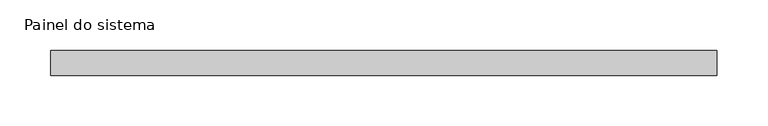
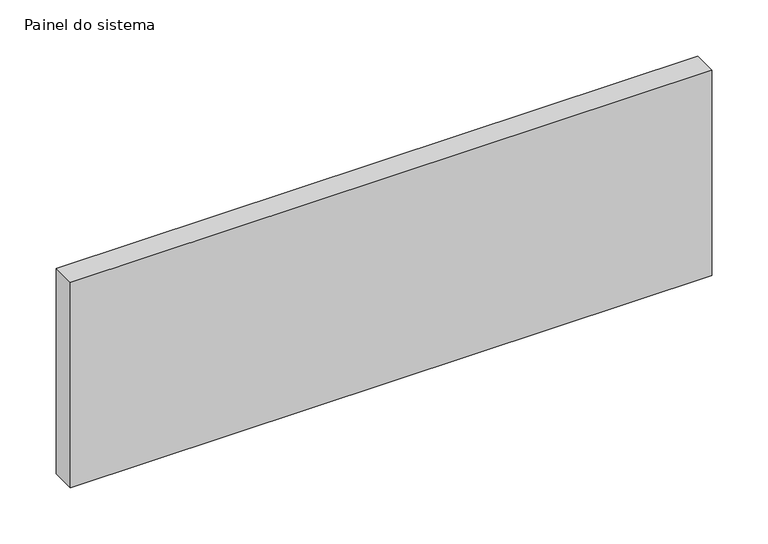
"""IFC4 building model written with IfcOpenShell, lengths in millimetres: plate geometry, Painel do sistema : Envidraçado."""

import ifcopenshell
import ifcopenshell.guid

model = None  # the IFC model being written
_history = None  # IfcOwnerHistory: only IFC2X3 demands one
_inside = {}  # id of a spatial element -> (the spatial element, [elements in it])
_under = {}  # id of a project, library or spatial element -> (it, [spatial elements below it])
_declared = {}  # id of a project -> (the project, [libraries it declares])
_typed = {}  # id of a type object -> (the type object, [elements of that type])
_made_of = {}  # id of a material, layer set ... -> (it, [elements and type objects made of it])


def new_model(schema):
    """Start an empty IFC model of exactly this schema.

    Asked for "IFC4X3", IfcOpenShell would pick the latest addendum, in which some entities
    have other attributes; the version numbers below select the first issue.
    IFC2X3 requires an IfcOwnerHistory on every rooted entity: one is made here for all.
    """
    global model, _history
    if schema == "IFC4X3":
        model = ifcopenshell.file(schema_version=(4, 3, 0, 0))
    else:
        model = ifcopenshell.file(schema=schema)
    _inside.clear()
    _under.clear()
    _declared.clear()
    _typed.clear()
    _made_of.clear()
    _history = None
    if model.schema == "IFC2X3":
        org = make("IfcOrganization", Name="unknown")
        user = make(
            "IfcPersonAndOrganization",
            ThePerson=make("IfcPerson", FamilyName="unknown"),
            TheOrganization=org,
        )
        app = make(
            "IfcApplication",
            ApplicationDeveloper=org,
            Version="unknown",
            ApplicationFullName="unknown",
            ApplicationIdentifier="unknown",
        )
        _history = make(
            "IfcOwnerHistory",
            OwningUser=user,
            OwningApplication=app,
            ChangeAction="ADDED",
            CreationDate=0,
        )
    return model


def make(cls, **values):
    """One entity of the class cls with the attributes given. An attribute that is None is left unset."""
    return model.create_entity(
        cls, **{name: value for name, value in values.items() if value is not None}
    )


def rooted(cls, **values):
    """An entity with a GlobalId (a new one), such as an element, a storey or a relation."""
    return make(cls, GlobalId=ifcopenshell.guid.new(), OwnerHistory=_history, **values)


def si_unit(unit_type, name, prefix=None):
    """IfcSIUnit, for example si_unit("LENGTHUNIT", "METRE", prefix="MILLI")."""
    return make("IfcSIUnit", UnitType=unit_type, Prefix=prefix, Name=name)


def assignment(units):
    """IfcUnitAssignment: the units of a project."""
    return None if units is None else make("IfcUnitAssignment", Units=units)


def point(xyz):
    """IfcCartesianPoint."""
    return None if xyz is None else make("IfcCartesianPoint", Coordinates=xyz)


def direction(xyz):
    """IfcDirection."""
    return None if xyz is None else make("IfcDirection", DirectionRatios=xyz)


def frame(location, z_axis=None, x_axis=None):
    """IfcAxis2Placement3D, a coordinate frame: its origin and axes. An axis left out is left unset."""
    return make(
        "IfcAxis2Placement3D",
        Location=point(location),
        Axis=direction(z_axis),
        RefDirection=direction(x_axis),
    )


def origin():
    """The frame at (0, 0, 0) with its axes left unset."""
    return frame((0.0, 0.0, 0.0))


def origin_with_axes():
    """The frame at (0, 0, 0) with the z axis (0, 0, 1) and the x axis (1, 0, 0) written out."""
    return frame((0.0, 0.0, 0.0), z_axis=(0.0, 0.0, 1.0), x_axis=(1.0, 0.0, 0.0))


def place(relative_to, where):
    """IfcLocalPlacement: puts the frame where relative to a parent placement (None: the world)."""
    return make(
        "IfcLocalPlacement", PlacementRelTo=relative_to, RelativePlacement=where
    )


def context(
    kind, dimensions, precision=None, world=None, true_north=None, identifier=None
):
    """IfcGeometricRepresentationContext, for example the 3D "Model" context."""
    return make(
        "IfcGeometricRepresentationContext",
        ContextIdentifier=identifier,
        ContextType=kind,
        CoordinateSpaceDimension=dimensions,
        Precision=precision,
        WorldCoordinateSystem=world,
        TrueNorth=true_north,
    )


def project(units=None, contexts=None):
    """IfcProject with its units and contexts."""
    return rooted(
        "IfcProject",
        Name="project",
        RepresentationContexts=contexts,
        UnitsInContext=assignment(units),
    )


def spatial(cls, under=None, at=None, **own):
    """A site, building, storey or space (cls), placed at a placement, below another one or the project."""
    s = rooted(cls, ObjectPlacement=at, **own)
    if under is not None:
        _under.setdefault(under.id(), (under, []))[1].append(s)
    return s


def polyline(points):
    """IfcPolyline through the points."""
    return make("IfcPolyline", Points=[point(p) for p in points])


def outline(outer, holes=None, kind="AREA"):
    """IfcArbitraryClosedProfileDef: a profile drawn as a closed curve; with holes, ...WithVoids."""
    if holes is None:
        return make("IfcArbitraryClosedProfileDef", ProfileType=kind, OuterCurve=outer)
    return make(
        "IfcArbitraryProfileDefWithVoids",
        ProfileType=kind,
        OuterCurve=outer,
        InnerCurves=holes,
    )


def extrude(swept, where, along, depth):
    """IfcExtrudedAreaSolid: the profile swept, set in the frame where, extruded along a direction by depth."""
    return make(
        "IfcExtrudedAreaSolid",
        SweptArea=swept,
        Position=where,
        ExtrudedDirection=direction(along),
        Depth=depth,
    )


def shape(context_of_items, identifier, shape_type, items):
    """IfcShapeRepresentation: the items that make up one representation, for example the "Body"."""
    return make(
        "IfcShapeRepresentation",
        ContextOfItems=context_of_items,
        RepresentationIdentifier=identifier,
        RepresentationType=shape_type,
        Items=items,
    )


def source(mapping_origin, context_of_items, identifier, shape_type, items):
    """IfcRepresentationMap: a shape defined once, which mapped items show again and again."""
    return make(
        "IfcRepresentationMap",
        MappingOrigin=mapping_origin,
        MappedRepresentation=shape(context_of_items, identifier, shape_type, items),
    )


def transform(
    local_origin,
    x_axis=None,
    y_axis=None,
    z_axis=None,
    scale=None,
    scale2=None,
    scale3=None,
    uniform=True,
):
    """IfcCartesianTransformationOperator3D, or its non-uniform kind. x_axis, y_axis, z_axis: its Axis1, 2, 3."""
    if uniform:
        return make(
            "IfcCartesianTransformationOperator3D",
            Axis1=direction(x_axis),
            Axis2=direction(y_axis),
            LocalOrigin=point(local_origin),
            Scale=scale,
            Axis3=direction(z_axis),
        )
    return make(
        "IfcCartesianTransformationOperator3DnonUniform",
        Axis1=direction(x_axis),
        Axis2=direction(y_axis),
        LocalOrigin=point(local_origin),
        Scale=scale,
        Axis3=direction(z_axis),
        Scale2=scale2,
        Scale3=scale3,
    )


def mapped(mapping_source, mapping_target):
    """IfcMappedItem: shows the shape of a source again, moved by a transform."""
    return make(
        "IfcMappedItem", MappingSource=mapping_source, MappingTarget=mapping_target
    )


def made_of(thing, what):
    """Note that an element or type object is made of a material, layer set ...; save() writes the relation."""
    if what is not None:
        _made_of.setdefault(what.id(), (what, []))[1].append(thing)
    return thing


def element(
    cls,
    number,
    at=None,
    inside=None,
    cuts=None,
    type_object=None,
    material=None,
    context=None,
    identifier="Body",
    shape_type=None,
    held_by="IfcProductDefinitionShape",
    body=None,
    shapes=None,
    **own,
):
    """One element of the class cls, such as IfcWall. Its Tag is "e" and its number.

    at: its placement. inside: the storey or other place that contains it. cuts: it is an
    opening in that element (IfcRelVoidsElement). A single representation is given by context,
    identifier, shape_type and body (its items); several are given by shapes. held_by: the class
    of the entity that holds the representations. save() writes the other relations.
    """
    e = rooted(cls, Tag="e%d" % number, ObjectPlacement=at, **own)
    if body is not None:
        shapes = [shape(context, identifier, shape_type, body)]
    if shapes is not None:
        e.Representation = make(held_by, Representations=shapes)
    if inside is not None:
        _inside.setdefault(inside.id(), (inside, []))[1].append(e)
    if cuts is not None:
        rooted(
            "IfcRelVoidsElement", RelatingBuildingElement=cuts, RelatedOpeningElement=e
        )
    if type_object is not None:
        _typed.setdefault(type_object.id(), (type_object, []))[1].append(e)
    return made_of(e, material)


def aggregate(whole, parts):
    """IfcRelAggregates: a whole, such as a stair, and the parts it consists of."""
    return rooted("IfcRelAggregates", RelatingObject=whole, RelatedObjects=parts)


def save(model, path):
    """Write the relations noted so far, then the file.

    IfcRelAggregates (storeys below a building ...), IfcRelContainedInSpatialStructure (elements
    in a storey), IfcRelDefinesByType, IfcRelAssociatesMaterial and IfcRelDeclares: one each for
    every whole, place, type object, material and project.
    """
    for whole, parts in _under.values():
        aggregate(whole, parts)
    for where, things in _inside.values():
        rooted(
            "IfcRelContainedInSpatialStructure",
            RelatedElements=things,
            RelatingStructure=where,
        )
    for kind, things in _typed.values():
        rooted("IfcRelDefinesByType", RelatedObjects=things, RelatingType=kind)
    for what, things in _made_of.values():
        rooted("IfcRelAssociatesMaterial", RelatedObjects=things, RelatingMaterial=what)
    for by, libraries in _declared.values():
        rooted("IfcRelDeclares", RelatingContext=by, RelatedDefinitions=libraries)
    model.write(path)


def painel_do_sistema_847c8d16(model_context):
    return source(origin(), model_context, "Body", "SweptSolid", [
        extrude(outline(polyline([(330.025, 24.5), (-330.025, 24.5), (-330.025, 49.5), (330.025, 49.5), (330.025, 24.5)])), origin_with_axes(), (0.0, 0.0, 1.0), 223.6217085),
    ])


if __name__ == "__main__":
    model = new_model("IFC4")
    model_context = context("Model", 3, world=origin())
    ifc_project = project(units=[si_unit("LENGTHUNIT", "METRE", prefix="MILLI")], contexts=[model_context])
    site = spatial("IfcSite", under=ifc_project)
    building = spatial("IfcBuilding", under=site)
    placement = place(None, origin())
    painel_do_sistema_shape = painel_do_sistema_847c8d16(model_context)
    element("IfcPlate", 1, ObjectType="Painel do sistema : Envidraçado", at=placement, inside=building, context=model_context, shape_type="MappedRepresentation", body=[
        mapped(painel_do_sistema_shape, transform((0.0, 0.0, 0.0), x_axis=(1.0, 0.0, 0.0), y_axis=(0.0, 1.0, 0.0), z_axis=(0.0, 0.0, 1.0))),
    ])
    save(model, "model.ifc")
